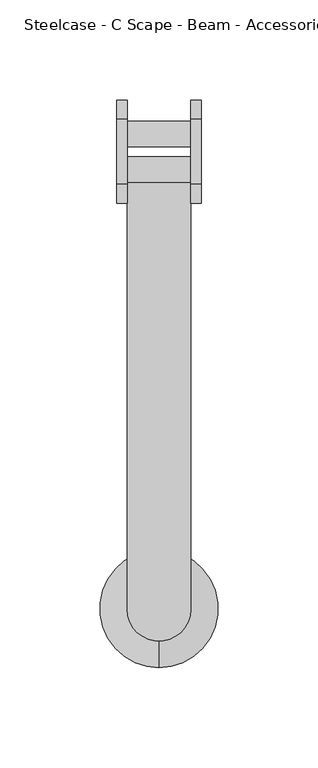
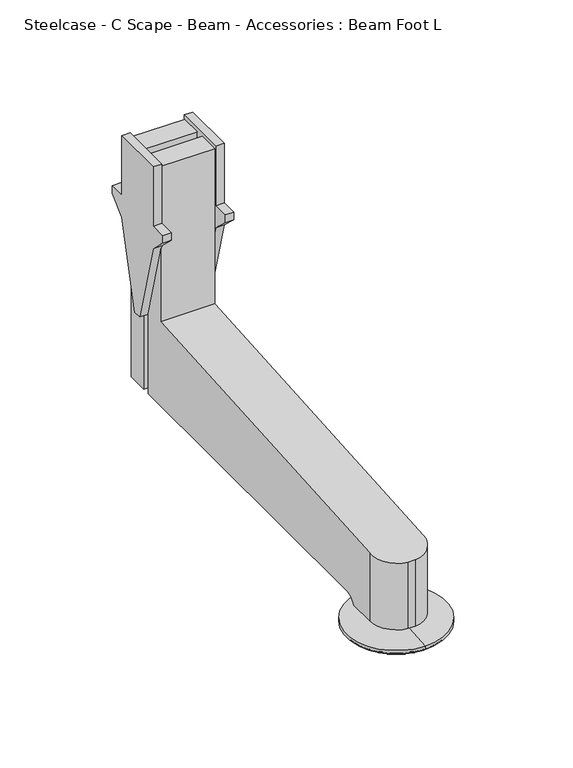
"""IFC4 building model written with IfcOpenShell, lengths in millimetres: furniture geometry, Steelcase - C Scape - Beam - Accessories : Beam Foot L."""

import ifcopenshell
import ifcopenshell.guid

model = None  # the IFC model being written
_history = None  # IfcOwnerHistory: only IFC2X3 demands one
_inside = {}  # id of a spatial element -> (the spatial element, [elements in it])
_under = {}  # id of a project, library or spatial element -> (it, [spatial elements below it])
_declared = {}  # id of a project -> (the project, [libraries it declares])
_typed = {}  # id of a type object -> (the type object, [elements of that type])
_made_of = {}  # id of a material, layer set ... -> (it, [elements and type objects made of it])


def new_model(schema):
    """Start an empty IFC model of exactly this schema.

    Asked for "IFC4X3", IfcOpenShell would pick the latest addendum, in which some entities
    have other attributes; the version numbers below select the first issue.
    IFC2X3 requires an IfcOwnerHistory on every rooted entity: one is made here for all.
    """
    global model, _history
    if schema == "IFC4X3":
        model = ifcopenshell.file(schema_version=(4, 3, 0, 0))
    else:
        model = ifcopenshell.file(schema=schema)
    _inside.clear()
    _under.clear()
    _declared.clear()
    _typed.clear()
    _made_of.clear()
    _history = None
    if model.schema == "IFC2X3":
        org = make("IfcOrganization", Name="unknown")
        user = make(
            "IfcPersonAndOrganization",
            ThePerson=make("IfcPerson", FamilyName="unknown"),
            TheOrganization=org,
        )
        app = make(
            "IfcApplication",
            ApplicationDeveloper=org,
            Version="unknown",
            ApplicationFullName="unknown",
            ApplicationIdentifier="unknown",
        )
        _history = make(
            "IfcOwnerHistory",
            OwningUser=user,
            OwningApplication=app,
            ChangeAction="ADDED",
            CreationDate=0,
        )
    return model


def make(cls, **values):
    """One entity of the class cls with the attributes given. An attribute that is None is left unset."""
    return model.create_entity(
        cls, **{name: value for name, value in values.items() if value is not None}
    )


def rooted(cls, **values):
    """An entity with a GlobalId (a new one), such as an element, a storey or a relation."""
    return make(cls, GlobalId=ifcopenshell.guid.new(), OwnerHistory=_history, **values)


def si_unit(unit_type, name, prefix=None):
    """IfcSIUnit, for example si_unit("LENGTHUNIT", "METRE", prefix="MILLI")."""
    return make("IfcSIUnit", UnitType=unit_type, Prefix=prefix, Name=name)


def assignment(units):
    """IfcUnitAssignment: the units of a project."""
    return None if units is None else make("IfcUnitAssignment", Units=units)


def point(xyz):
    """IfcCartesianPoint."""
    return None if xyz is None else make("IfcCartesianPoint", Coordinates=xyz)


def direction(xyz):
    """IfcDirection."""
    return None if xyz is None else make("IfcDirection", DirectionRatios=xyz)


def frame(location, z_axis=None, x_axis=None):
    """IfcAxis2Placement3D, a coordinate frame: its origin and axes. An axis left out is left unset."""
    return make(
        "IfcAxis2Placement3D",
        Location=point(location),
        Axis=direction(z_axis),
        RefDirection=direction(x_axis),
    )


def origin():
    """The frame at (0, 0, 0) with its axes left unset."""
    return frame((0.0, 0.0, 0.0))


def place(relative_to, where):
    """IfcLocalPlacement: puts the frame where relative to a parent placement (None: the world)."""
    return make(
        "IfcLocalPlacement", PlacementRelTo=relative_to, RelativePlacement=where
    )


def context(
    kind, dimensions, precision=None, world=None, true_north=None, identifier=None
):
    """IfcGeometricRepresentationContext, for example the 3D "Model" context."""
    return make(
        "IfcGeometricRepresentationContext",
        ContextIdentifier=identifier,
        ContextType=kind,
        CoordinateSpaceDimension=dimensions,
        Precision=precision,
        WorldCoordinateSystem=world,
        TrueNorth=true_north,
    )


def project(units=None, contexts=None):
    """IfcProject with its units and contexts."""
    return rooted(
        "IfcProject",
        Name="project",
        RepresentationContexts=contexts,
        UnitsInContext=assignment(units),
    )


def spatial(cls, under=None, at=None, **own):
    """A site, building, storey or space (cls), placed at a placement, below another one or the project."""
    s = rooted(cls, ObjectPlacement=at, **own)
    if under is not None:
        _under.setdefault(under.id(), (under, []))[1].append(s)
    return s


def polyline(points):
    """IfcPolyline through the points."""
    return make("IfcPolyline", Points=[point(p) for p in points])


def circle_curve(where, radius):
    """IfcCircle in the frame where."""
    return make("IfcCircle", Position=where, Radius=radius)


def ellipse_curve(where, semi_axis1, semi_axis2):
    """IfcEllipse in the frame where."""
    return make(
        "IfcEllipse", Position=where, SemiAxis1=semi_axis1, SemiAxis2=semi_axis2
    )


def trimmed(basis, trim1, trim2, sense, master):
    """IfcTrimmedCurve: the piece of a basis curve between two trims."""
    return make(
        "IfcTrimmedCurve",
        BasisCurve=basis,
        Trim1=trim1,
        Trim2=trim2,
        SenseAgreement=sense,
        MasterRepresentation=master,
    )


def outline(outer, holes=None, kind="AREA"):
    """IfcArbitraryClosedProfileDef: a profile drawn as a closed curve; with holes, ...WithVoids."""
    if holes is None:
        return make("IfcArbitraryClosedProfileDef", ProfileType=kind, OuterCurve=outer)
    return make(
        "IfcArbitraryProfileDefWithVoids",
        ProfileType=kind,
        OuterCurve=outer,
        InnerCurves=holes,
    )


def extrude(swept, where, along, depth):
    """IfcExtrudedAreaSolid: the profile swept, set in the frame where, extruded along a direction by depth."""
    return make(
        "IfcExtrudedAreaSolid",
        SweptArea=swept,
        Position=where,
        ExtrudedDirection=direction(along),
        Depth=depth,
    )


def shape(context_of_items, identifier, shape_type, items):
    """IfcShapeRepresentation: the items that make up one representation, for example the "Body"."""
    return make(
        "IfcShapeRepresentation",
        ContextOfItems=context_of_items,
        RepresentationIdentifier=identifier,
        RepresentationType=shape_type,
        Items=items,
    )


def source(mapping_origin, context_of_items, identifier, shape_type, items):
    """IfcRepresentationMap: a shape defined once, which mapped items show again and again."""
    return make(
        "IfcRepresentationMap",
        MappingOrigin=mapping_origin,
        MappedRepresentation=shape(context_of_items, identifier, shape_type, items),
    )


def transform(
    local_origin,
    x_axis=None,
    y_axis=None,
    z_axis=None,
    scale=None,
    scale2=None,
    scale3=None,
    uniform=True,
):
    """IfcCartesianTransformationOperator3D, or its non-uniform kind. x_axis, y_axis, z_axis: its Axis1, 2, 3."""
    if uniform:
        return make(
            "IfcCartesianTransformationOperator3D",
            Axis1=direction(x_axis),
            Axis2=direction(y_axis),
            LocalOrigin=point(local_origin),
            Scale=scale,
            Axis3=direction(z_axis),
        )
    return make(
        "IfcCartesianTransformationOperator3DnonUniform",
        Axis1=direction(x_axis),
        Axis2=direction(y_axis),
        LocalOrigin=point(local_origin),
        Scale=scale,
        Axis3=direction(z_axis),
        Scale2=scale2,
        Scale3=scale3,
    )


def mapped(mapping_source, mapping_target):
    """IfcMappedItem: shows the shape of a source again, moved by a transform."""
    return make(
        "IfcMappedItem", MappingSource=mapping_source, MappingTarget=mapping_target
    )


def made_of(thing, what):
    """Note that an element or type object is made of a material, layer set ...; save() writes the relation."""
    if what is not None:
        _made_of.setdefault(what.id(), (what, []))[1].append(thing)
    return thing


def element(
    cls,
    number,
    at=None,
    inside=None,
    cuts=None,
    type_object=None,
    material=None,
    context=None,
    identifier="Body",
    shape_type=None,
    held_by="IfcProductDefinitionShape",
    body=None,
    shapes=None,
    **own,
):
    """One element of the class cls, such as IfcWall. Its Tag is "e" and its number.

    at: its placement. inside: the storey or other place that contains it. cuts: it is an
    opening in that element (IfcRelVoidsElement). A single representation is given by context,
    identifier, shape_type and body (its items); several are given by shapes. held_by: the class
    of the entity that holds the representations. save() writes the other relations.
    """
    e = rooted(cls, Tag="e%d" % number, ObjectPlacement=at, **own)
    if body is not None:
        shapes = [shape(context, identifier, shape_type, body)]
    if shapes is not None:
        e.Representation = make(held_by, Representations=shapes)
    if inside is not None:
        _inside.setdefault(inside.id(), (inside, []))[1].append(e)
    if cuts is not None:
        rooted(
            "IfcRelVoidsElement", RelatingBuildingElement=cuts, RelatedOpeningElement=e
        )
    if type_object is not None:
        _typed.setdefault(type_object.id(), (type_object, []))[1].append(e)
    return made_of(e, material)


def aggregate(whole, parts):
    """IfcRelAggregates: a whole, such as a stair, and the parts it consists of."""
    return rooted("IfcRelAggregates", RelatingObject=whole, RelatedObjects=parts)


def save(model, path):
    """Write the relations noted so far, then the file.

    IfcRelAggregates (storeys below a building ...), IfcRelContainedInSpatialStructure (elements
    in a storey), IfcRelDefinesByType, IfcRelAssociatesMaterial and IfcRelDeclares: one each for
    every whole, place, type object, material and project.
    """
    for whole, parts in _under.values():
        aggregate(whole, parts)
    for where, things in _inside.values():
        rooted(
            "IfcRelContainedInSpatialStructure",
            RelatedElements=things,
            RelatingStructure=where,
        )
    for kind, things in _typed.values():
        rooted("IfcRelDefinesByType", RelatedObjects=things, RelatingType=kind)
    for what, things in _made_of.values():
        rooted("IfcRelAssociatesMaterial", RelatedObjects=things, RelatingMaterial=what)
    for by, libraries in _declared.values():
        rooted("IfcRelDeclares", RelatingContext=by, RelatedDefinitions=libraries)
    model.write(path)


def plane_surface(at):
    """IfcPlane: the flat surface through the origin of the frame at, square to its z axis."""
    return make("IfcPlane", Position=at)


def cylinder_surface(at, radius):
    """IfcCylindricalSurface: all points at the distance radius from the z axis of the frame at."""
    return make("IfcCylindricalSurface", Position=at, Radius=radius)


def revolved_surface(curve, axis_point, axis_direction):
    """IfcSurfaceOfRevolution: the curve turned about the line through axis_point along axis_direction."""
    return make(
        "IfcSurfaceOfRevolution",
        SweptCurve=make("IfcArbitraryOpenProfileDef", ProfileType="CURVE", Curve=curve),
        AxisPosition=make("IfcAxis1Placement", Location=point(axis_point), Axis=direction(axis_direction)),
    )


def advanced_brep(points, edges, surfaces, faces):
    """IfcAdvancedBrep: a solid bounded by faces that lie on surfaces and meet in shared edges.

    An edge is (start, end): straight between two places in points (the first is 0);
    or (start, end, curve); or (start, end, curve, False) where it runs against its curve.
    A face is (place in surfaces, loops), or (place, loops, False) where it looks against
    its surface's normal. A loop lists edges by number (the first is 1), with a minus sign
    where the edge is run from its end to its start. The first loop is the outer one.
    """
    corners = [point(p) for p in points]
    vertices = [make("IfcVertexPoint", VertexGeometry=c) for c in corners]
    made = []
    for start, end, *more in edges:
        made.append(
            make(
                "IfcEdgeCurve",
                EdgeStart=vertices[start],
                EdgeEnd=vertices[end],
                EdgeGeometry=more[0] if more else make("IfcPolyline", Points=[corners[start], corners[end]]),
                SameSense=more[1] if len(more) > 1 else True,
            )
        )
    hull = []
    for where, loops, *sense in faces:
        bounds = []
        for j, loop in enumerate(loops):
            ring = [make("IfcOrientedEdge", EdgeElement=made[abs(k) - 1], Orientation=k > 0) for k in loop]
            bounds.append(
                make(
                    "IfcFaceOuterBound" if j == 0 else "IfcFaceBound",
                    Bound=make("IfcEdgeLoop", EdgeList=ring),
                    Orientation=True,
                )
            )
        hull.append(make("IfcAdvancedFace", Bounds=bounds, FaceSurface=surfaces[where], SameSense=sense[0] if sense else True))
    return make("IfcAdvancedBrep", Outer=make("IfcClosedShell", CfsFaces=hull))


def steelcase_c_scape_beam_accessories_beam_foot_l_b23190c0(model_context):
    return source(origin(), model_context, "Body", "SolidModel", [
        advanced_brep(
        [(102.235, -249.7685531, 8.1788), (102.235, -243.6853189, 12.7), (102.235, -40.4876, 12.7), (102.235, -40.4876, 161.925), (102.235, -53.1853189, 161.925), (102.235, -53.1853189, 65.3289571), (102.235, -266.05601, 50.4435884), (102.235, -266.05601, 8.1788), (70.485, -243.6853189, 12.7), (70.485, -249.7685531, 8.1788), (70.485, -266.05601, 8.1788), (70.485, -266.05601, 50.4435884), (70.485, -53.1853189, 65.3289571), (70.485, -53.1853189, 161.925), (70.485, -40.4876, 161.925), (70.485, -40.4876, 12.7), (88.4711489, -281.7900074, 49.3433601), (84.2488511, -281.7900074, 49.3433601), (84.2488511, -281.7900074, 8.1788), (88.4711489, -281.7900074, 8.1788), (86.3596898, -256.4097496, 8.1788), (86.3596898, -275.1488109, 8.1788), (86.3596898, -291.6923891, 0.0), (86.3596898, -239.8661714, 0.0), (86.3596898, -265.7792803, 0.0), (86.3596898, -293.7625007, 1.2438485), (86.3596898, -237.7960598, 1.2438485), (86.3596898, -294.2787222, 1.9543664), (86.3596898, -237.2798383, 1.9543664), (86.3596898, -295.1734605, 2.4919794), (86.3596898, -236.3851, 2.4919794), (86.3596898, -295.1734605, 4.4952124), (86.3596898, -236.3851, 4.4952124), (86.3596898, -275.1488109, 6.3780266), (86.3596898, -256.4097496, 6.3780266)],
        [
            (0, 1, circle_curve(frame((102.235, -243.6853189, 6.3469313), z_axis=(-1.0, 0.0, 0.0), x_axis=(0.0, -1.0, 0.0)), 6.3530687)),
            (1, 2),
            (2, 3),
            (3, 4),
            (4, 5),
            (5, 6),
            (6, 7),
            (7, 0),
            (8, 9, circle_curve(frame((70.485, -243.6853189, 6.3469313), z_axis=(1.0, 0.0, 0.0), x_axis=(0.0, -1.0, 0.0)), 6.3530687)),
            (9, 10),
            (10, 11),
            (11, 12),
            (12, 13),
            (13, 14),
            (14, 15),
            (15, 8),
            (16, 17),
            (17, 18),
            (18, 19),
            (19, 16),
            (9, 0),
            (7, 19, circle_curve(frame((86.36, -266.05601, 8.1788), z_axis=(0.0, 0.0, -1.0), x_axis=(1.0, 0.0, 0.0)), 15.875)),
            (18, 10, circle_curve(frame((86.36, -266.05601, 8.1788), z_axis=(0.0, 0.0, -1.0), x_axis=(1.0, 0.0, 0.0)), 15.875)),
            (20, 21, circle_curve(frame((86.3596898, -265.7792803, 8.1788), z_axis=(0.0, 0.0, 1.0), x_axis=(0.0, 1.0, 0.0)), 9.3695306)),
            (21, 20, circle_curve(frame((86.3596898, -265.7792803, 8.1788), z_axis=(0.0, 0.0, 1.0), x_axis=(0.0, 1.0, 0.0)), 9.3695306)),
            (8, 1),
            (15, 2),
            (5, 12),
            (11, 17, ellipse_curve(frame((86.36, -266.05601, 50.4435884), z_axis=(0.0, -0.06975647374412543, 0.9975640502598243), x_axis=(0.0, -0.9975640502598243, -0.06975647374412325)), 15.9137651, 15.875)),
            (16, 6, ellipse_curve(frame((86.36, -266.05601, 50.4435884), z_axis=(0.0, -0.06975647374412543, 0.9975640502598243), x_axis=(0.0, -0.9975640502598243, -0.06975647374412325)), 15.9137651, 15.875)),
            (3, 14),
            (13, 4),
            (22, 23, circle_curve(frame((86.3596898, -265.7792803, 0.0), z_axis=(0.0, 0.0, -1.0), x_axis=(0.0, 1.0, 0.0)), 25.9131089)),
            (23, 24),
            (24, 22),
            (23, 22, circle_curve(frame((86.3596898, -265.7792803, 0.0), z_axis=(0.0, 0.0, -1.0), x_axis=(0.0, 1.0, 0.0)), 25.9131089)),
            (22, 25),
            (25, 26, circle_curve(frame((86.3596898, -265.7792803, 1.2438485), z_axis=(0.0, 0.0, -1.0), x_axis=(0.0, 1.0, 0.0)), 27.9832205)),
            (26, 23),
            (26, 25, circle_curve(frame((86.3596898, -265.7792803, 1.2438485), z_axis=(0.0, 0.0, -1.0), x_axis=(0.0, 1.0, 0.0)), 27.9832205)),
            (25, 27, circle_curve(frame((86.3596898, -292.5810693, 2.644996), z_axis=(-1.0, 0.0, 0.0), x_axis=(0.0, 1.0, 0.0)), 1.832756)),
            (27, 28, circle_curve(frame((86.3596898, -265.7792803, 1.9543664), z_axis=(0.0, 0.0, -1.0), x_axis=(0.0, 1.0, 0.0)), 28.4994419)),
            (28, 26, circle_curve(frame((86.3596898, -238.9774912, 2.644996), z_axis=(-1.0, 0.0, 0.0), x_axis=(0.0, -1.0, 0.0)), 1.832756)),
            (28, 27, circle_curve(frame((86.3596898, -265.7792803, 1.9543664), z_axis=(0.0, 0.0, -1.0), x_axis=(0.0, 1.0, 0.0)), 28.4994419)),
            (27, 29, circle_curve(frame((86.3596898, -295.1769176, 1.4728721), z_axis=(1.0, 0.0, 0.0), x_axis=(0.0, 1.0, 0.0)), 1.0191132)),
            (29, 30, circle_curve(frame((86.3596898, -265.7792803, 2.4919794), z_axis=(0.0, 0.0, -1.0), x_axis=(0.0, 1.0, 0.0)), 29.3941803)),
            (30, 28, circle_curve(frame((86.3596898, -236.3816429, 1.4728721), z_axis=(1.0, 0.0, 0.0), x_axis=(0.0, -1.0, 0.0)), 1.0191132)),
            (30, 29, circle_curve(frame((86.3596898, -265.7792803, 2.4919794), z_axis=(0.0, 0.0, -1.0), x_axis=(0.0, 1.0, 0.0)), 29.3941803)),
            (29, 31),
            (31, 32, circle_curve(frame((86.3596898, -265.7792803, 4.4952124), z_axis=(0.0, 0.0, -1.0), x_axis=(0.0, 1.0, 0.0)), 29.3941803)),
            (32, 30),
            (32, 31, circle_curve(frame((86.3596898, -265.7792803, 4.4952124), z_axis=(0.0, 0.0, -1.0), x_axis=(0.0, 1.0, 0.0)), 29.3941803)),
            (31, 33, circle_curve(frame((86.3596898, -256.6068363, -298.2523056), z_axis=(-1.0, 0.0, 0.0), x_axis=(0.0, 1.0, 0.0)), 305.1941089)),
            (33, 34, circle_curve(frame((86.3596898, -265.7792803, 6.3780266), z_axis=(0.0, 0.0, -1.0), x_axis=(0.0, 1.0, 0.0)), 9.3695306)),
            (34, 32, circle_curve(frame((86.3596898, -274.9517242, -298.2523056), z_axis=(-1.0, 0.0, 0.0), x_axis=(0.0, -1.0, 0.0)), 305.1941089)),
            (34, 33, circle_curve(frame((86.3596898, -265.7792803, 6.3780266), z_axis=(0.0, 0.0, -1.0), x_axis=(0.0, 1.0, 0.0)), 9.3695306)),
            (33, 21),
            (20, 34),
        ],
        [
            plane_surface(frame((102.235, -281.7900074, 50.4618626), z_axis=(1.0, 0.0, 0.0), x_axis=(0.0, 0.0, -1.0))),
            plane_surface(frame((70.485, -281.7900074, 50.4618626), z_axis=(-1.0, 0.0, 0.0), x_axis=(0.0, 0.0, 1.0))),
            plane_surface(frame((102.235, -281.7900074, 49.3433601), z_axis=(0.0, -1.0, 0.0), x_axis=(-1.0, 0.0, 0.0))),
            plane_surface(frame((102.235, -281.7900074, 8.1788), z_axis=(0.0, 0.0, -1.0), x_axis=(-1.0, 0.0, 0.0))),
            revolved_surface(polyline([(70.485, -250.0383876, 6.3469313), (102.235, -250.0383876, 6.3469313)]), (70.485, -243.6853189, 6.3469313), (-1.0, 0.0, 0.0)),
            plane_surface(frame((102.235, -243.6853189, 12.7), z_axis=(0.0, 0.0, -1.0), x_axis=(-1.0, 0.0, 0.0))),
            plane_surface(frame((102.235, -53.1853189, 65.3289571), z_axis=(0.0, -0.06975647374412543, 0.9975640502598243), x_axis=(-1.0, 0.0, 0.0))),
            plane_surface(frame((102.235, -40.4876, 161.925), z_axis=(0.0, 0.0, 1.0), x_axis=(-1.0, 0.0, 0.0))),
            plane_surface(frame((102.235, -53.1853189, 161.925), z_axis=(0.0, -1.0, 0.0), x_axis=(-1.0, 0.0, 0.0))),
            plane_surface(frame((102.235, -40.4876, 12.7), z_axis=(0.0, 1.0, 0.0), x_axis=(-1.0, 0.0, 0.0))),
            plane_surface(frame((86.3596898, -265.7792803, 0.0), z_axis=(0.0, 0.0, -1.0), x_axis=(0.0, 1.0, 0.0))),
            revolved_surface(polyline([(86.3596898, -239.8661714, 0.0), (86.3596898, -237.7960598, 1.2438485)]), (86.3596898, -265.7792803, 0.8789446), (0.0, 0.0, 1.0)),
            revolved_surface(trimmed(ellipse_curve(frame((86.3596898, -238.9774912, 2.644996), z_axis=(1.0, 0.0, 0.0), x_axis=(0.0, -1.0, 0.0)), 1.832756, 1.832756), [point((86.3596898, -237.7960598, 1.2438485))], [point((86.3596898, -237.2798383, 1.9543664))], True, "CARTESIAN"), (86.3596898, -265.7792803, 0.8789446), (0.0, 0.0, 1.0)),
            revolved_surface(trimmed(ellipse_curve(frame((86.3596898, -236.3816429, 1.4728721), z_axis=(-1.0, 0.0, 0.0), x_axis=(0.0, -1.0, 0.0)), 1.0191132, 1.0191132), [point((86.3596898, -237.2798383, 1.9543664))], [point((86.3596898, -236.3851, 2.4919794))], True, "CARTESIAN"), (86.3596898, -265.7792803, 0.8789446), (0.0, 0.0, 1.0)),
            cylinder_surface(frame((86.3596898, -265.7792803, 0.8789446), z_axis=(0.0, 0.0, 1.0), x_axis=(0.0, 1.0, 0.0)), 29.3941803),
            revolved_surface(trimmed(ellipse_curve(frame((86.3596898, -274.9517242, -298.2523056), z_axis=(1.0, 0.0, 0.0), x_axis=(0.0, -1.0, 0.0)), 305.1941089, 305.1941089), [point((86.3596898, -236.3851, 4.4952124))], [point((86.3596898, -256.4097496, 6.3780266))], True, "CARTESIAN"), (86.3596898, -265.7792803, 0.8789446), (0.0, 0.0, 1.0)),
            cylinder_surface(frame((86.3596898, -265.7792803, 0.8789446), z_axis=(0.0, 0.0, 1.0), x_axis=(0.0, 1.0, 0.0)), 9.3695306),
            cylinder_surface(frame((86.36, -266.05601, 7.283261), z_axis=(0.0, 0.0, -1.0), x_axis=(1.0, 0.0, 0.0)), 15.875),
        ],
        [
            (0, [[1, 2, 3, 4, 5, 6, 7, 8]]),
            (1, [[9, 10, 11, 12, 13, 14, 15, 16]]),
            (2, [[17, 18, 19, 20]]),
            (3, [[21, -8, 22, -19, 23, -10], [24, 25]]),
            (4, [[-1, -21, -9, 26]]),
            (5, [[-26, -16, 27, -2]]),
            (6, [[28, -12, 29, -17, 30, -6]]),
            (7, [[-4, 31, -14, 32]]),
            (8, [[-32, -13, -28, -5]]),
            (9, [[-3, -27, -15, -31]]),
            (10, [[33, 34, 35]]),
            (10, [[-34, 36, -35]]),
            (11, [[-33, 37, 38, 39]]),
            (11, [[-36, -39, 40, -37]]),
            (12, [[-38, 41, 42, 43]]),
            (12, [[-40, -43, 44, -41]]),
            (13, [[-42, 45, 46, 47]]),
            (13, [[-44, -47, 48, -45]]),
            (14, [[-46, 49, 50, 51]]),
            (14, [[-48, -51, 52, -49]]),
            (15, [[-50, 53, 54, 55]]),
            (15, [[-52, -55, 56, -53]]),
            (16, [[-54, 57, -24, 58]]),
            (16, [[-56, -58, -25, -57]]),
            (17, [[-7, -30, -20, -22]]),
            (17, [[-11, -23, -18, -29]]),
        ],
    ),
        extrude(outline(polyline([(-54.1527017, 163.9569981), (-22.0197793, 163.9569981), (-22.0197793, 126.999997), (-12.4715249, 126.999997), (-12.4715249, 122.2247979), (-22.0635961, 113.131463), (-35.7124, 62.357), (-40.4876, 62.357), (-54.1527017, 113.1570011), (-63.6777017, 122.2247979), (-63.6777017, 126.999997), (-54.1527017, 126.999997), (-54.1527017, 163.9569981)])), frame((102.235267, 0.0, 0.0), z_axis=(1.0, 0.0, 0.0), x_axis=(0.0, 1.0, 0.0)), (0.0, 0.0, 1.0), 5.08),
        extrude(outline(polyline([(102.235, -23.0124), (102.235, -35.7124), (70.485, -35.7124), (70.485, -23.0124), (102.235, -23.0124)])), frame((0.0, 0.0, 12.7), z_axis=(0.0, 0.0, 1.0), x_axis=(1.0, 0.0, 0.0)), (0.0, 0.0, 1.0), 149.225),
        extrude(outline(polyline([(-54.1527017, 163.9569981), (-22.0197793, 163.9569981), (-22.0197793, 126.999997), (-12.4715249, 126.999997), (-12.4715249, 122.2247979), (-22.0635961, 113.131463), (-35.7124, 62.357), (-40.4876, 62.357), (-54.1527017, 113.1570011), (-63.6777017, 122.2247979), (-63.6777017, 126.999997), (-54.1527017, 126.999997), (-54.1527017, 163.9569981)])), frame((65.405, 0.0, 0.0), z_axis=(1.0, 0.0, 0.0), x_axis=(0.0, 1.0, 0.0)), (0.0, 0.0, 1.0), 5.08),
    ])


if __name__ == "__main__":
    model = new_model("IFC4")
    model_context = context("Model", 3, world=origin())
    ifc_project = project(units=[si_unit("LENGTHUNIT", "METRE", prefix="MILLI")], contexts=[model_context])
    site = spatial("IfcSite", under=ifc_project)
    building = spatial("IfcBuilding", under=site)
    placement = place(None, origin())
    steelcase_c_scape_beam_accessories_beam_foot_l_shape = steelcase_c_scape_beam_accessories_beam_foot_l_b23190c0(model_context)
    element("IfcFurniture", 1, ObjectType="Steelcase - C Scape - Beam - Accessories : Beam Foot L", at=placement, inside=building, context=model_context, shape_type="MappedRepresentation", body=[
        mapped(steelcase_c_scape_beam_accessories_beam_foot_l_shape, transform((0.0, 0.0, 0.0), x_axis=(1.0, 0.0, 0.0), y_axis=(0.0, 1.0, 0.0), z_axis=(0.0, 0.0, 1.0))),
    ])
    save(model, "model.ifc")
